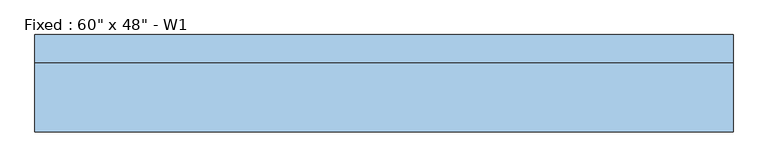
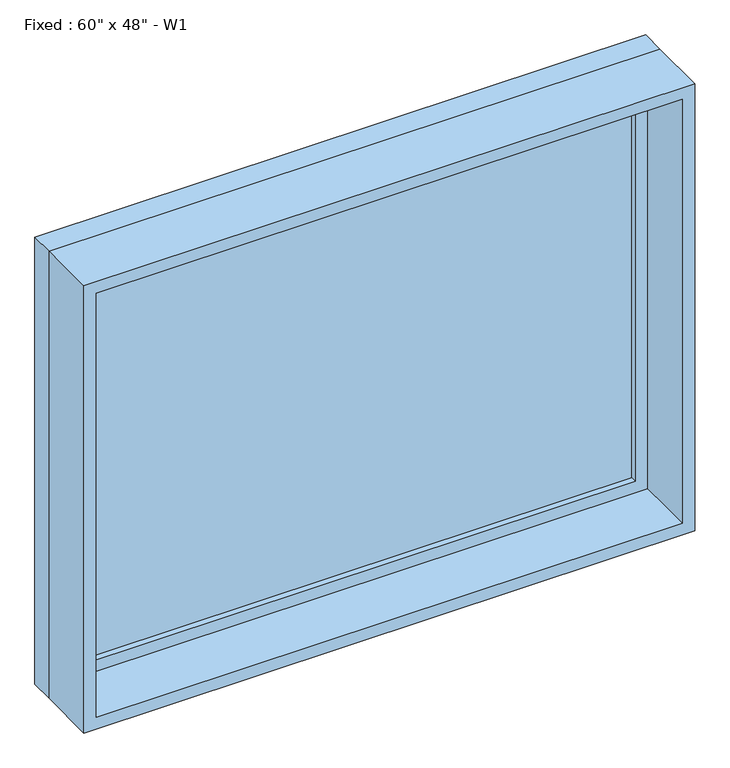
"""IFC4 building model written with IfcOpenShell, lengths in millimetres: window geometry."""

from ifc_helpers import new_model, si_unit, frame, origin, place, context, project, spatial, polyline, outline, extrude, source, transform, mapped, element, save


def window_a0bf6c86(model_context):
    return source(origin(), model_context, "Body", "SweptSolid", [
        extrude(outline(polyline([(685.8, 61.9125), (-762.0, 61.9125), (-762.0, 74.6125), (685.8, 74.6125), (685.8, 61.9125)])), frame((0.0, 0.0, 977.9), z_axis=(0.0, 0.0, 1.0), x_axis=(1.0, 0.0, 0.0)), (0.0, 0.0, 1.0), 1092.2),
        extrude(outline(polyline([(2114.55, -806.45), (933.45, -806.45), (933.45, 730.25), (2114.55, 730.25), (2114.55, -806.45)]), holes=[polyline([(2070.1, -762.0), (2070.1, 685.8), (977.9, 685.8), (977.9, -762.0), (2070.1, -762.0)])]), frame((0.0, 46.0375, 0.0), z_axis=(0.0, 1.0, 0.0), x_axis=(0.0, 0.0, 1.0)), (0.0, 0.0, 1.0), 44.45),
        extrude(outline(polyline([(2133.6, -825.5), (914.4, -825.5), (914.4, 749.3), (2133.6, 749.3), (2133.6, -825.5)]), holes=[polyline([(2101.85, -793.75), (2101.85, 717.55), (946.15, 717.55), (946.15, -793.75), (2101.85, -793.75)])]), frame((0.0, -109.5375, 0.0), z_axis=(0.0, 1.0, 0.0), x_axis=(0.0, 0.0, 1.0)), (0.0, 0.0, 1.0), 155.575),
        extrude(outline(polyline([(2133.6, 749.3), (2133.6, -825.5), (914.4, -825.5), (914.4, 749.3), (2133.6, 749.3)]), holes=[polyline([(2114.55, 730.25), (933.45, 730.25), (933.45, -806.45), (2114.55, -806.45), (2114.55, 730.25)])]), frame((0.0, 46.0375, 0.0), z_axis=(0.0, 1.0, 0.0), x_axis=(0.0, 0.0, 1.0)), (0.0, 0.0, 1.0), 63.5),
    ])


if __name__ == "__main__":
    model = new_model("IFC4")
    model_context = context("Model", 3, world=origin())
    ifc_project = project(units=[si_unit("LENGTHUNIT", "METRE", prefix="MILLI")], contexts=[model_context])
    site = spatial("IfcSite", under=ifc_project)
    building = spatial("IfcBuilding", under=site)
    placement = place(None, origin())
    window_shape = window_a0bf6c86(model_context)
    element("IfcWindow", 1, ObjectType="Fixed : 60\" x 48\" - W1", at=placement, inside=building, context=model_context, shape_type="MappedRepresentation", body=[
        mapped(window_shape, transform((0.0, 0.0, 0.0), x_axis=(1.0, 0.0, 0.0), y_axis=(0.0, 1.0, 0.0), z_axis=(0.0, 0.0, 1.0))),
    ])
    save(model, "model.ifc")
